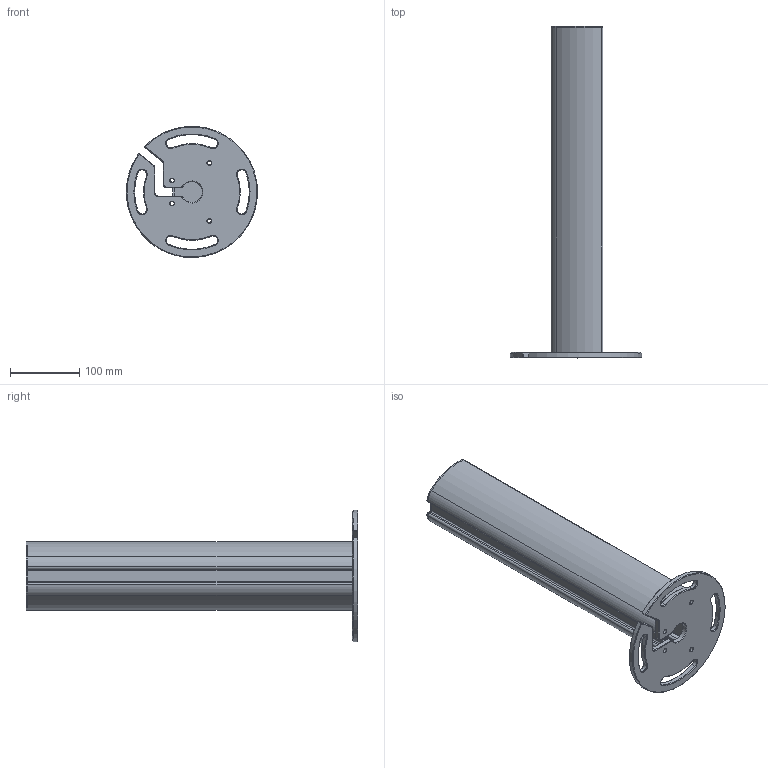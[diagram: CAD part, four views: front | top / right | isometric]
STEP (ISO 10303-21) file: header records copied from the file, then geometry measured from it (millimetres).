
FILE_DESCRIPTION((''),'2;1');
FILE_NAME('ESQC_ASM','2022-07-19T12:08:18',('18822879468'),(''),'CREO PARAMETRIC BY PTC INC, 2019010','CREO PARAMETRIC BY PTC INC, 2019010','');
FILE_SCHEMA(('CONFIG_CONTROL_DESIGN'));
Length unit declared in the file: millimetre
Products named in the file (5): 00; _-0001; _-0002; 000; ESQC_ASM
Assembly tree (4 placements, depth 2):
  ESQC_ASM
    00
    _-0001
    _-0002
    000
Bounding box: 189.81 x 480 x 189.85 mm (x, y, z)
Volume: 822195.2 mm3; surface area: 414966 mm2
Topology: 4 solids, 4 shells, 239 faces, 613 edges, 378 vertices
Faces by surface type: cylinder 98, plane 73, cone 68
Entity records: 7388 total; most frequent: DIRECTION 1365, CARTESIAN_POINT 1235, ORIENTED_EDGE 1218, EDGE_CURVE 609, AXIS2_PLACEMENT_3D 508, VERTEX_POINT 378, VECTOR 349, LINE 349
